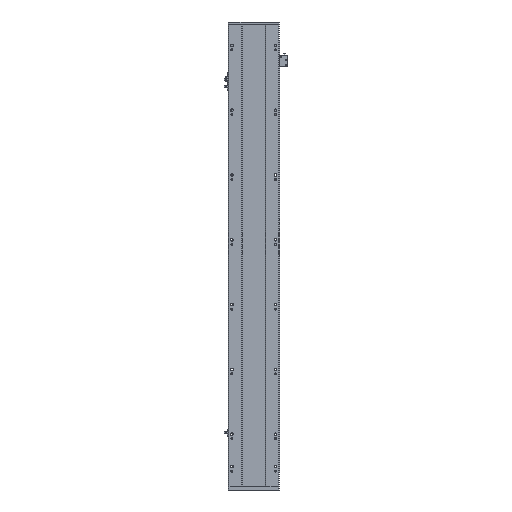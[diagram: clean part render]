
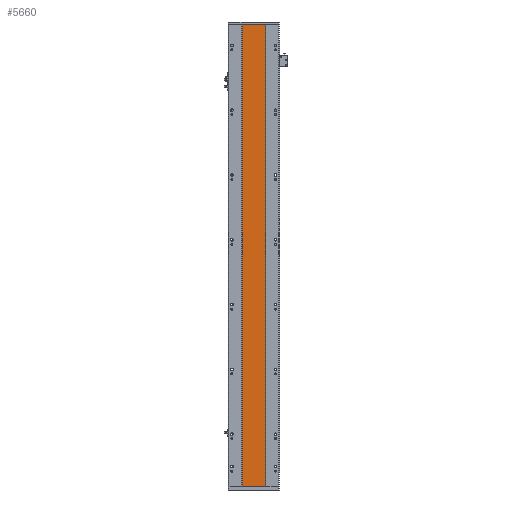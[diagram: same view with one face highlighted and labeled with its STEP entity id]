
A CAD part, front view. The second image highlights one B-rep face of the part: STEP entity #5660.
In plain terms, the highlighted planar face has unit normal (0, -1, 0).
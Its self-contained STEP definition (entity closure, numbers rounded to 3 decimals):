
#320 = EDGE_CURVE ( 'NONE', #16512, #15820, #30929, .T. ) ;
#1697 = VERTEX_POINT ( 'NONE', #33059 ) ;
#3819 = DIRECTION ( 'NONE',  ( 0., 0., -1. ) ) ;
#5660 = ADVANCED_FACE ( 'NONE', ( #19505 ), #28998, .F. ) ;
#7115 = DIRECTION ( 'NONE',  ( 0., 0., -1. ) ) ;
#8563 = LINE ( 'NONE', #14634, #21261 ) ;
#9023 = LINE ( 'NONE', #28005, #12979 ) ;
#9914 = CARTESIAN_POINT ( 'NONE',  ( 205.288, 16.9, 1540. ) ) ;
#10309 = CARTESIAN_POINT ( 'NONE',  ( 129.288, 16.9, 1540. ) ) ;
#11375 = VERTEX_POINT ( 'NONE', #10309 ) ;
#12979 = VECTOR ( 'NONE', #25082, 1000. ) ;
#13341 = ORIENTED_EDGE ( 'NONE', *, *, #14174, .T. ) ;
#13545 = EDGE_CURVE ( 'NONE', #11375, #16512, #9023, .T. ) ;
#14174 = EDGE_CURVE ( 'NONE', #11375, #1697, #8563, .T. ) ;
#14634 = CARTESIAN_POINT ( 'NONE',  ( 129.288, 16.9, 1540. ) ) ;
#15069 = DIRECTION ( 'NONE',  ( -1., 0., 0. ) ) ;
#15820 = VERTEX_POINT ( 'NONE', #16703 ) ;
#15833 = LINE ( 'NONE', #15869, #35123 ) ;
#15869 = CARTESIAN_POINT ( 'NONE',  ( 205.288, 16.9, 0. ) ) ;
#16512 = VERTEX_POINT ( 'NONE', #22514 ) ;
#16703 = CARTESIAN_POINT ( 'NONE',  ( 205.288, 16.9, 0. ) ) ;
#19505 = FACE_OUTER_BOUND ( 'NONE', #30221, .T. ) ;
#21261 = VECTOR ( 'NONE', #3819, 1000. ) ;
#22514 = CARTESIAN_POINT ( 'NONE',  ( 205.288, 16.9, 1540. ) ) ;
#24988 = ORIENTED_EDGE ( 'NONE', *, *, #320, .F. ) ;
#25082 = DIRECTION ( 'NONE',  ( 1., 0., 0. ) ) ;
#25645 = ORIENTED_EDGE ( 'NONE', *, *, #13545, .F. ) ;
#25652 = VECTOR ( 'NONE', #7115, 1000. ) ;
#28005 = CARTESIAN_POINT ( 'NONE',  ( 129.288, 16.9, 1540. ) ) ;
#28640 = ORIENTED_EDGE ( 'NONE', *, *, #33776, .T. ) ;
#28984 = AXIS2_PLACEMENT_3D ( 'NONE', #9914, #32098, #15069 ) ;
#28998 = PLANE ( 'NONE',  #28984 ) ;
#29805 = DIRECTION ( 'NONE',  ( 1., 0., 0. ) ) ;
#30221 = EDGE_LOOP ( 'NONE', ( #28640, #24988, #25645, #13341 ) ) ;
#30929 = LINE ( 'NONE', #32221, #25652 ) ;
#32098 = DIRECTION ( 'NONE',  ( 0., 1., 0. ) ) ;
#32221 = CARTESIAN_POINT ( 'NONE',  ( 205.288, 16.9, 1540. ) ) ;
#33059 = CARTESIAN_POINT ( 'NONE',  ( 129.288, 16.9, 0. ) ) ;
#33776 = EDGE_CURVE ( 'NONE', #1697, #15820, #15833, .T. ) ;
#35123 = VECTOR ( 'NONE', #29805, 1000. ) ;
